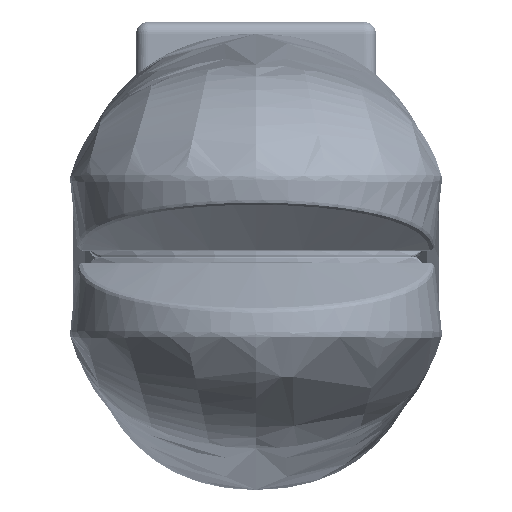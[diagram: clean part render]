
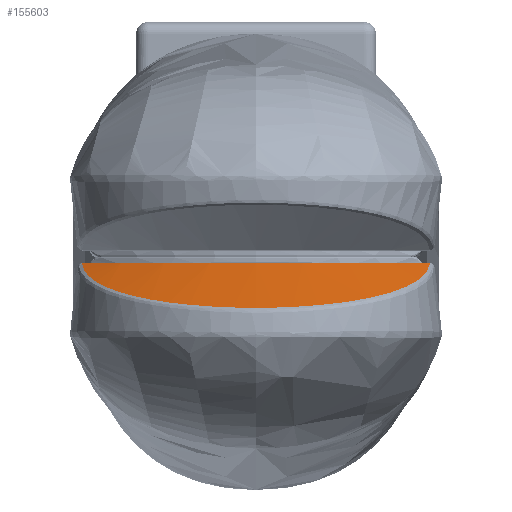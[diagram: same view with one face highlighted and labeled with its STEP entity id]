
A CAD part, top view. The second image highlights one B-rep face of the part: STEP entity #155603.
In plain terms, the highlighted conical face has half-angle 67.373 degrees and reference radius 32.452 mm.
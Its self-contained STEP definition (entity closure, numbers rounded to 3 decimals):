
#4952 = FACE_OUTER_BOUND ( 'NONE', #14657, .T. ) ;
#14657 = EDGE_LOOP ( 'NONE', ( #46193, #36299, #333621 ) ) ;
#19853 = CARTESIAN_POINT ( 'NONE',  ( -6.828, -3.903, 136.829 ) ) ;
#23800 = CARTESIAN_POINT ( 'NONE',  ( 0., -4.292, 138.501 ) ) ;
#24556 = CARTESIAN_POINT ( 'NONE',  ( -10.226, -3.301, 134.339 ) ) ;
#29220 = CARTESIAN_POINT ( 'NONE',  ( -14.501, -0.538, 124.459 ) ) ;
#33720 = CARTESIAN_POINT ( 'NONE',  ( 11.163, -3.035, 133.291 ) ) ;
#34913 = CARTESIAN_POINT ( 'NONE',  ( 2.846, -4.233, 138.245 ) ) ;
#36299 = ORIENTED_EDGE ( 'NONE', *, *, #127004, .T. ) ;
#42262 = B_SPLINE_CURVE_WITH_KNOTS ( 'NONE', 3,
 ( #93932, #89226, #144546, #90417, #258874, #62761, #33720, #121656, #340711, #118094, #337190, #143379, #34913, #65134, #66328, #227662, #174579 ),
 .UNSPECIFIED., .F., .F.,
 ( 4, 1, 1, 1, 1, 1, 1, 1, 1, 1, 1, 1, 1, 1, 4 ),
 ( 0., 0.125, 0.187, 0.25, 0.375, 0.437, 0.5, 0.625, 0.687, 0.749, 0.812, 0.874, 0.937, 0.999, 1. ),
 .UNSPECIFIED. ) ;
#46193 = ORIENTED_EDGE ( 'NONE', *, *, #313330, .F. ) ;
#51172 = CARTESIAN_POINT ( 'NONE',  ( -11.179, -3.042, 133.303 ) ) ;
#52335 = CONICAL_SURFACE ( 'NONE', #349991, 32.452, 1.176 ) ;
#62761 = CARTESIAN_POINT ( 'NONE',  ( 12.291, -2.649, 131.791 ) ) ;
#65134 = CARTESIAN_POINT ( 'NONE',  ( 1.431, -4.282, 138.455 ) ) ;
#66328 = CARTESIAN_POINT ( 'NONE',  ( 0.483, -4.292, 138.501 ) ) ;
#89226 = CARTESIAN_POINT ( 'NONE',  ( 14.478, -0.827, 125.359 ) ) ;
#90417 = CARTESIAN_POINT ( 'NONE',  ( 13.827, -1.744, 128.467 ) ) ;
#93932 = CARTESIAN_POINT ( 'NONE',  ( 14.501, -0.538, 124.459 ) ) ;
#106589 = CARTESIAN_POINT ( 'NONE',  ( -5.1, -4.093, 137.638 ) ) ;
#118094 = CARTESIAN_POINT ( 'NONE',  ( 6.83, -3.901, 136.823 ) ) ;
#121656 = CARTESIAN_POINT ( 'NONE',  ( 9.907, -3.38, 134.663 ) ) ;
#127004 = EDGE_CURVE ( 'NONE', #329010, #196863, #196959, .T. ) ;
#128163 = EDGE_CURVE ( 'NONE', #313692, #196863, #342053, .T. ) ;
#140499 = AXIS2_PLACEMENT_3D ( 'NONE', #324262, #218208, #354257 ) ;
#143379 = CARTESIAN_POINT ( 'NONE',  ( 4.232, -4.153, 137.897 ) ) ;
#144546 = CARTESIAN_POINT ( 'NONE',  ( 14.311, -1.234, 126.697 ) ) ;
#155603 = ADVANCED_FACE ( 'NONE', ( #4952 ), #52335, .T. ) ;
#174579 = CARTESIAN_POINT ( 'NONE',  ( 0., -4.292, 138.501 ) ) ;
#184800 = CARTESIAN_POINT ( 'NONE',  ( -9.173, -3.532, 135.278 ) ) ;
#187177 = CARTESIAN_POINT ( 'NONE',  ( -0.467, -4.292, 138.501 ) ) ;
#196863 = VERTEX_POINT ( 'NONE', #29220 ) ;
#196959 = CIRCLE ( 'NONE', #140499, 23.392 ) ;
#212539 = CARTESIAN_POINT ( 'NONE',  ( -12.015, -2.758, 132.196 ) ) ;
#216064 = CARTESIAN_POINT ( 'NONE',  ( -8.042, -3.731, 136.106 ) ) ;
#218208 = DIRECTION ( 'NONE',  ( 0., -1., 0. ) ) ;
#227662 = CARTESIAN_POINT ( 'NONE',  ( 0.005, -4.292, 138.501 ) ) ;
#237469 = CARTESIAN_POINT ( 'NONE',  ( 0., -4.315, 106.103 ) ) ;
#240276 = CARTESIAN_POINT ( 'NONE',  ( -12.741, -2.449, 131.018 ) ) ;
#241461 = CARTESIAN_POINT ( 'NONE',  ( -14.478, -0.827, 125.36 ) ) ;
#258874 = CARTESIAN_POINT ( 'NONE',  ( 13.172, -2.223, 130.188 ) ) ;
#266779 = CARTESIAN_POINT ( 'NONE',  ( -13.561, -1.997, 129.346 ) ) ;
#269146 = CARTESIAN_POINT ( 'NONE',  ( -1.409, -4.282, 138.456 ) ) ;
#295699 = CARTESIAN_POINT ( 'NONE',  ( -3.301, -4.218, 138.178 ) ) ;
#296857 = CARTESIAN_POINT ( 'NONE',  ( -14.255, -1.385, 127.184 ) ) ;
#313330 = EDGE_CURVE ( 'NONE', #329010, #313692, #42262, .T. ) ;
#313692 = VERTEX_POINT ( 'NONE', #23800 ) ;
#322128 = CARTESIAN_POINT ( 'NONE',  ( -14.501, -0.538, 124.459 ) ) ;
#324262 = CARTESIAN_POINT ( 'NONE',  ( 0., -0.538, 106.103 ) ) ;
#325675 = CARTESIAN_POINT ( 'NONE',  ( 0., -4.292, 138.501 ) ) ;
#329010 = VERTEX_POINT ( 'NONE', #346451 ) ;
#333621 = ORIENTED_EDGE ( 'NONE', *, *, #128163, .F. ) ;
#337190 = CARTESIAN_POINT ( 'NONE',  ( 5.558, -4.042, 137.422 ) ) ;
#340711 = CARTESIAN_POINT ( 'NONE',  ( 8.464, -3.668, 135.847 ) ) ;
#342053 = B_SPLINE_CURVE_WITH_KNOTS ( 'NONE', 3,
 ( #325675, #187177, #269146, #295699, #106589, #19853, #216064, #184800, #24556, #51172, #212539, #240276, #266779, #296857, #241461, #322128 ),
 .UNSPECIFIED., .F., .F.,
 ( 4, 1, 1, 1, 1, 1, 1, 1, 1, 1, 1, 1, 1, 4 ),
 ( 0., 0.062, 0.124, 0.249, 0.312, 0.375, 0.437, 0.5, 0.562, 0.625, 0.687, 0.75, 0.875, 1. ),
 .UNSPECIFIED. ) ;
#345795 = DIRECTION ( 'NONE',  ( 0., -1., 0. ) ) ;
#346451 = CARTESIAN_POINT ( 'NONE',  ( 14.501, -0.538, 124.459 ) ) ;
#348145 = DIRECTION ( 'NONE',  ( 0., 0., -1. ) ) ;
#349991 = AXIS2_PLACEMENT_3D ( 'NONE', #237469, #345795, #348145 ) ;
#354257 = DIRECTION ( 'NONE',  ( 0., 0., -1. ) ) ;
